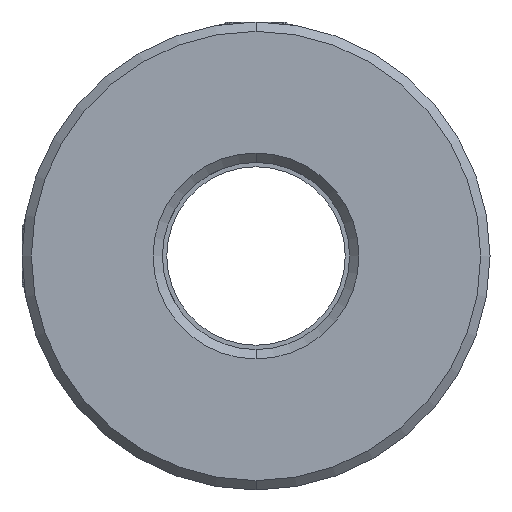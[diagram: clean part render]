
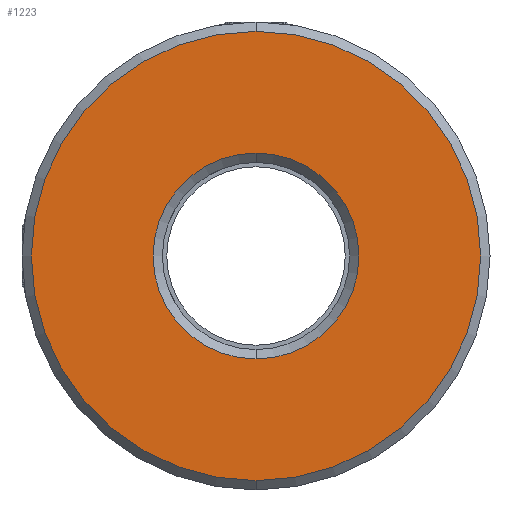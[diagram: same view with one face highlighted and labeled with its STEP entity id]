
A CAD part, front view. The second image highlights one B-rep face of the part: STEP entity #1223.
In plain terms, the highlighted planar face has unit normal (0, -1, 0).
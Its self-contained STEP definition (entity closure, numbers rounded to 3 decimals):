
#2 = AXIS2_PLACEMENT_3D ( 'NONE', #333, #353, #73 ) ;
#73 = DIRECTION ( 'NONE',  ( 0., 0., 1. ) ) ;
#150 = CARTESIAN_POINT ( 'NONE',  ( -10.188, -0.277, -5.454 ) ) ;
#242 = DIRECTION ( 'NONE',  ( 0., 0., 1. ) ) ;
#247 = EDGE_CURVE ( 'NONE', #2590, #3193, #3723, .T. ) ;
#333 = CARTESIAN_POINT ( 'NONE',  ( -10.188, -0.277, 0.046 ) ) ;
#353 = DIRECTION ( 'NONE',  ( 0., 1., 0. ) ) ;
#438 = EDGE_CURVE ( 'NONE', #1649, #906, #2235, .T. ) ;
#758 = DIRECTION ( 'NONE',  ( 0., 0., 1. ) ) ;
#906 = VERTEX_POINT ( 'NONE', #2443 ) ;
#1105 = CARTESIAN_POINT ( 'NONE',  ( -10.188, -0.277, 0.046 ) ) ;
#1165 = ORIENTED_EDGE ( 'NONE', *, *, #3360, .T. ) ;
#1223 = ADVANCED_FACE ( 'NONE', ( #2207, #2759 ), #1561, .F. ) ;
#1278 = CARTESIAN_POINT ( 'NONE',  ( -10.188, -0.277, 0.046 ) ) ;
#1439 = AXIS2_PLACEMENT_3D ( 'NONE', #1278, #3011, #1576 ) ;
#1447 = EDGE_LOOP ( 'NONE', ( #3651, #2026 ) ) ;
#1561 = PLANE ( 'NONE',  #2769 ) ;
#1568 = EDGE_LOOP ( 'NONE', ( #3366, #1165 ) ) ;
#1576 = DIRECTION ( 'NONE',  ( 0., 0., 1. ) ) ;
#1649 = VERTEX_POINT ( 'NONE', #150 ) ;
#1737 = CARTESIAN_POINT ( 'NONE',  ( -10.188, -0.277, 0.046 ) ) ;
#2026 = ORIENTED_EDGE ( 'NONE', *, *, #3315, .T. ) ;
#2051 = DIRECTION ( 'NONE',  ( 0., 1., 0. ) ) ;
#2179 = AXIS2_PLACEMENT_3D ( 'NONE', #1105, #3136, #242 ) ;
#2207 = FACE_OUTER_BOUND ( 'NONE', #1447, .T. ) ;
#2235 = CIRCLE ( 'NONE', #2, 5.5 ) ;
#2236 = AXIS2_PLACEMENT_3D ( 'NONE', #1737, #2051, #3154 ) ;
#2293 = CIRCLE ( 'NONE', #2179, 12. ) ;
#2443 = CARTESIAN_POINT ( 'NONE',  ( -10.188, -0.277, 5.546 ) ) ;
#2590 = VERTEX_POINT ( 'NONE', #3681 ) ;
#2606 = CIRCLE ( 'NONE', #2236, 5.5 ) ;
#2759 = FACE_BOUND ( 'NONE', #1568, .T. ) ;
#2769 = AXIS2_PLACEMENT_3D ( 'NONE', #3355, #3292, #758 ) ;
#3011 = DIRECTION ( 'NONE',  ( 0., -1., 0. ) ) ;
#3136 = DIRECTION ( 'NONE',  ( 0., -1., 0. ) ) ;
#3154 = DIRECTION ( 'NONE',  ( 0., 0., 1. ) ) ;
#3193 = VERTEX_POINT ( 'NONE', #3309 ) ;
#3292 = DIRECTION ( 'NONE',  ( 0., 1., 0. ) ) ;
#3309 = CARTESIAN_POINT ( 'NONE',  ( -10.188, -0.277, -11.954 ) ) ;
#3315 = EDGE_CURVE ( 'NONE', #3193, #2590, #2293, .T. ) ;
#3355 = CARTESIAN_POINT ( 'NONE',  ( -10.188, -0.277, 0.046 ) ) ;
#3360 = EDGE_CURVE ( 'NONE', #906, #1649, #2606, .T. ) ;
#3366 = ORIENTED_EDGE ( 'NONE', *, *, #438, .T. ) ;
#3651 = ORIENTED_EDGE ( 'NONE', *, *, #247, .T. ) ;
#3681 = CARTESIAN_POINT ( 'NONE',  ( -10.188, -0.277, 12.046 ) ) ;
#3723 = CIRCLE ( 'NONE', #1439, 12. ) ;
